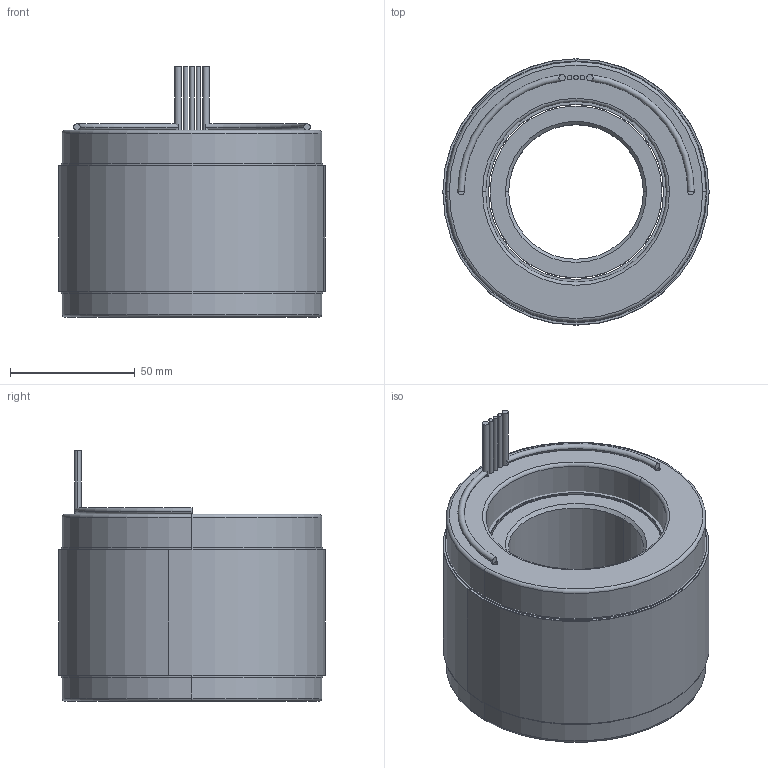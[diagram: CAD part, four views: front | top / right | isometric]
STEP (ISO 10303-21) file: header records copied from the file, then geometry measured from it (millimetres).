
FILE_DESCRIPTION (( 'STEP AP214' ), '1' );
FILE_NAME ('6100329-03.STEP', '2019-10-23T21:33:05', ( '' ), ( '' ), 'SwSTEP 2.0', 'SolidWorks 2016', '' );
FILE_SCHEMA (( 'AUTOMOTIVE_DESIGN' ));
Length unit declared in the file: millimetre
Products named in the file (10): 4250350-XX_4250350-03; 4500536-XX_4500536-03; 6100329-03; 4400065-00; 4600460-00; 4150160-XX_4150160-03; 4450153-XX_4450153-03; COMP4500536-XX (COIL)_COMP4500536-03 (COIL)
Assembly tree (10 placements, depth 4):
  6100329-03
    4500536-XX_4500536-03
      4450153-XX_4450153-03
        4450153-XX_4450153-03
        4400065-00
        4400065-00
        4600460-00  x2
      COMP4500536-XX (COIL)_COMP4500536-03 (COIL)
    4250350-XX_4250350-03
      4150160-XX_4150160-03
Bounding box: 106.68 x 106.68 x 100.33 mm (x, y, z)
Volume: 665833 mm3; surface area: 152499.3 mm2
Topology: 14 solids, 14 shells, 94 faces, 180 edges, 116 vertices
Faces by surface type: cylinder 48, plane 30, torus 12, cone 4
Entity records: 2735 total; most frequent: DIRECTION 496, CARTESIAN_POINT 380, ORIENTED_EDGE 336, AXIS2_PLACEMENT_3D 224, EDGE_CURVE 168, CIRCLE 120, VERTEX_POINT 108, EDGE_LOOP 102
